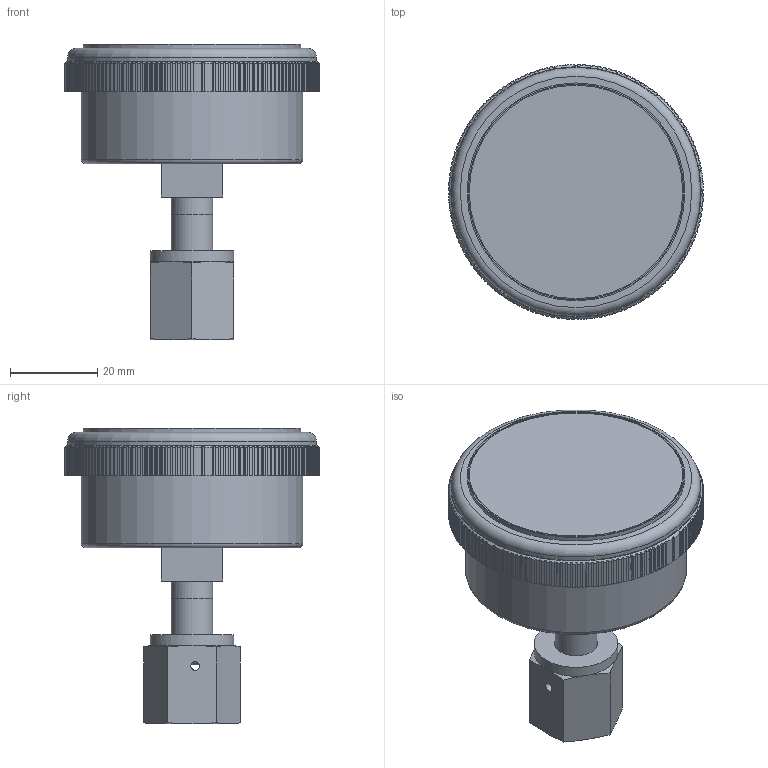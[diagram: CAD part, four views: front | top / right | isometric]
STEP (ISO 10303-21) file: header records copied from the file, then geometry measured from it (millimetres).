
FILE_DESCRIPTION(/* description */ (''),/* implementation_level */ '2;1');
FILE_NAME(/* name */ 'P800_50PI_CENTER BACK MOUNT_SWIVEL(F).stp',/* time_stamp */ '2025-03-27T08:08:31+09:00',/* author */ ('wise-209'),/* organization */ (''),/* preprocessor_version */ 'ST-DEVELOPER v19.2',/* originating_system */ 'Autodesk Inventor 2024',/* authorisation */ '');
FILE_SCHEMA (('AUTOMOTIVE_DESIGN { 1 0 10303 214 3 1 1 }'));
Length unit declared in the file: millimetre
Products named in the file (5): P8XX_50mm_F Type_SF_ASSY.ipt; 50pi F TYPE SHANK; P810_CASE,COVER,SHANK_ VCR; SHANK; 14NUT
Assembly tree (4 placements, depth 2):
  P8XX_50mm_F Type_SF_ASSY.ipt
    50pi F TYPE SHANK
    P810_CASE,COVER,SHANK_ VCR
    SHANK
    14NUT
Bounding box: 58.5 x 58.5 x 67.9 mm (x, y, z)
Volume: 60878.4 mm3; surface area: 21249.7 mm2
Topology: 4 solids, 5 shells, 663 faces, 1910 edges, 1266 vertices
Faces by surface type: plane 469, cylinder 164, cone 26, torus 4
Full cylindrical faces by diameter (mm): 1 x1, 2 x2, 2.5 x1, 4 x1, 4.5 x1, 7.7 x1, 9.53 x2, 9.9 x1, 11.3 x1, 12.7 x1, 12.8 x1, 15 x1, 19.2 x1, 48.998 x1, 50 x1, 50.8 x1, 55.5 x1, 57.1 x1
Entity records: 24571 total; most frequent: CARTESIAN_POINT 6531, ORIENTED_EDGE 3816, DIRECTION 3732, EDGE_CURVE 1908, LINE 1360, VECTOR 1360, VERTEX_POINT 1266, AXIS2_PLACEMENT_3D 1186
